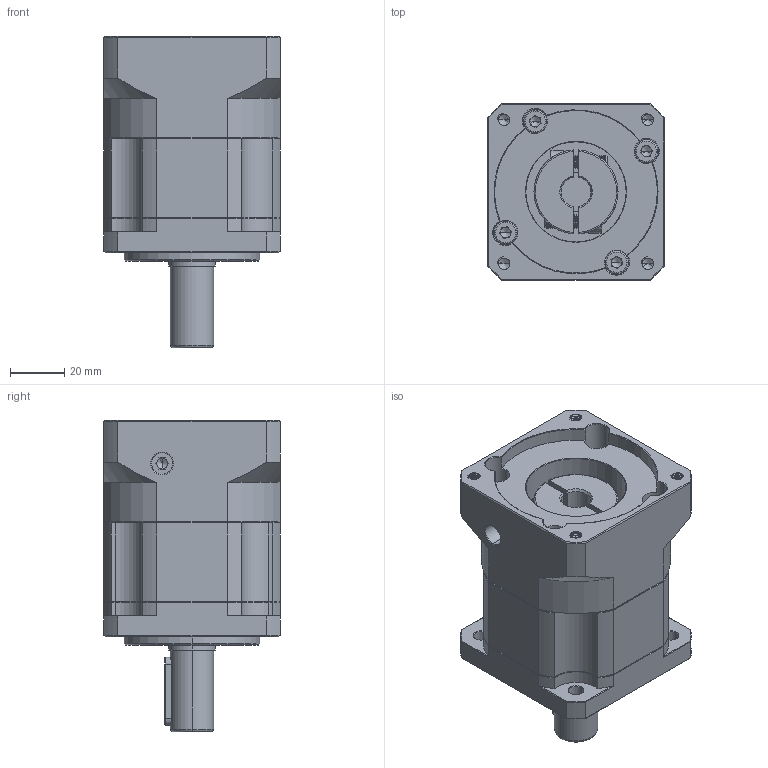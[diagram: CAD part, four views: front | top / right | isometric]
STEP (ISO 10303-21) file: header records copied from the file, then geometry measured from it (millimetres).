
FILE_DESCRIPTION (( 'STEP AP214' ), '1' );
FILE_NAME ('ZB060-D16-L1-P2-11-60-75-M5.step', '2023-08-16T07:04:24', ( '' ), ( '' ), 'SwSTEP 2.0', 'SolidWorks 2016', '' );
FILE_SCHEMA (( 'AUTOMOTIVE_DESIGN' ));
Length unit declared in the file: millimetre
Products named in the file (1): ZB060-D16-L1-P2-11-60-75-M5
Bounding box: 65 x 65 x 115 mm (x, y, z)
Volume: 266864 mm3; surface area: 54735.7 mm2
Topology: 6 solids, 6 shells, 2172 faces, 5855 edges, 3767 vertices
Faces by surface type: plane 1059, bspline 397, cylinder 396, cone 286, torus 34
Entity records: 118074 total; most frequent: CARTESIAN_POINT 42791, ORIENTED_EDGE 11650, DIRECTION 9186, EDGE_CURVE 5825, VERTEX_POINT 3767, VECTOR 3662, LINE 3662, AXIS2_PLACEMENT_3D 2762
